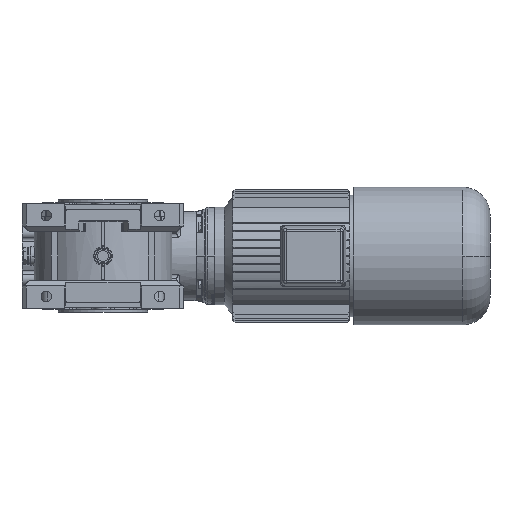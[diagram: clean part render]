
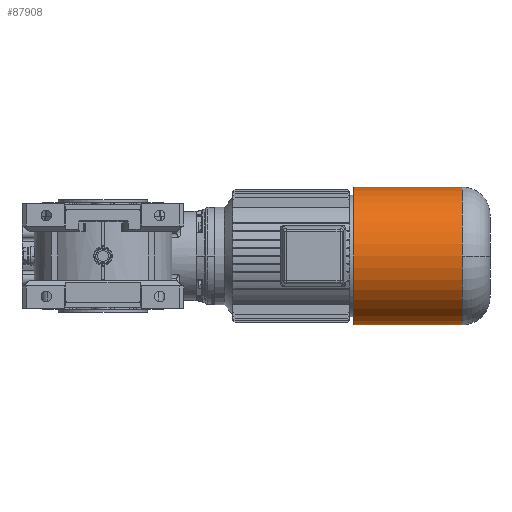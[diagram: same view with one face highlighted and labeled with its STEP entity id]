
A CAD part, front view. The second image highlights one B-rep face of the part: STEP entity #87908.
In plain terms, the highlighted cylindrical face has radius 85 mm (diameter 170 mm), a partial arc.
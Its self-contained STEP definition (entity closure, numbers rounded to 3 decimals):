
#87858=CARTESIAN_POINT('',(279.0,0.0,0.0));
#87859=DIRECTION('',(1.0,0.0,0.0));
#87860=DIRECTION('',(0.0,1.0,0.0));
#87861=AXIS2_PLACEMENT_3D('',#87858,#87859,#87860);
#87862=CYLINDRICAL_SURFACE('',#87861,85.);
#87863=CARTESIAN_POINT('',(212.0,85.,0.0));
#87864=VERTEX_POINT('',#87863);
#87865=CARTESIAN_POINT('',(346.0,85.,0.0));
#87866=VERTEX_POINT('',#87865);
#87867=CARTESIAN_POINT('',(212.0,85.,0.0));
#87868=DIRECTION('',(1.0,0.0,0.0));
#87869=VECTOR('',#87868,134.0);
#87870=LINE('',#87867,#87869);
#87871=EDGE_CURVE('',#87864,#87866,#87870,.T.);
#87872=ORIENTED_EDGE('',*,*,#87871,.F.);
#87873=CARTESIAN_POINT('',(212.0,-85.,0.));
#87874=VERTEX_POINT('',#87873);
#87875=CARTESIAN_POINT('',(212.0,0.0,0.0));
#87876=DIRECTION('',(1.0,0.0,0.0));
#87877=DIRECTION('',(0.0,1.0,0.0));
#87878=AXIS2_PLACEMENT_3D('',#87875,#87876,#87877);
#87879=CIRCLE('',#87878,85.);
#87880=EDGE_CURVE('',#87864,#87874,#87879,.T.);
#87881=ORIENTED_EDGE('',*,*,#87880,.T.);
#87882=CARTESIAN_POINT('',(346.0,-85.,0.));
#87883=VERTEX_POINT('',#87882);
#87884=CARTESIAN_POINT('',(346.0,-85.,0.));
#87885=DIRECTION('',(-1.0,0.0,0.0));
#87886=VECTOR('',#87885,134.0);
#87887=LINE('',#87884,#87886);
#87888=EDGE_CURVE('',#87883,#87874,#87887,.T.);
#87889=ORIENTED_EDGE('',*,*,#87888,.F.);
#87890=CARTESIAN_POINT('',(346.0,0.,85.));
#87891=VERTEX_POINT('',#87890);
#87892=CARTESIAN_POINT('',(346.0,0.0,0.0));
#87893=DIRECTION('',(1.0,0.0,0.0));
#87894=DIRECTION('',(0.0,1.0,0.0));
#87895=AXIS2_PLACEMENT_3D('',#87892,#87893,#87894);
#87896=CIRCLE('',#87895,85.);
#87897=EDGE_CURVE('',#87891,#87883,#87896,.T.);
#87898=ORIENTED_EDGE('',*,*,#87897,.F.);
#87899=CARTESIAN_POINT('',(346.0,0.0,0.0));
#87900=DIRECTION('',(1.0,0.0,0.0));
#87901=DIRECTION('',(0.0,1.0,0.0));
#87902=AXIS2_PLACEMENT_3D('',#87899,#87900,#87901);
#87903=CIRCLE('',#87902,85.);
#87904=EDGE_CURVE('',#87866,#87891,#87903,.T.);
#87905=ORIENTED_EDGE('',*,*,#87904,.F.);
#87906=EDGE_LOOP('',(#87872,#87881,#87889,#87898,#87905));
#87907=FACE_OUTER_BOUND('',#87906,.T.);
#87908=ADVANCED_FACE('',(#87907),#87862,.T.);
